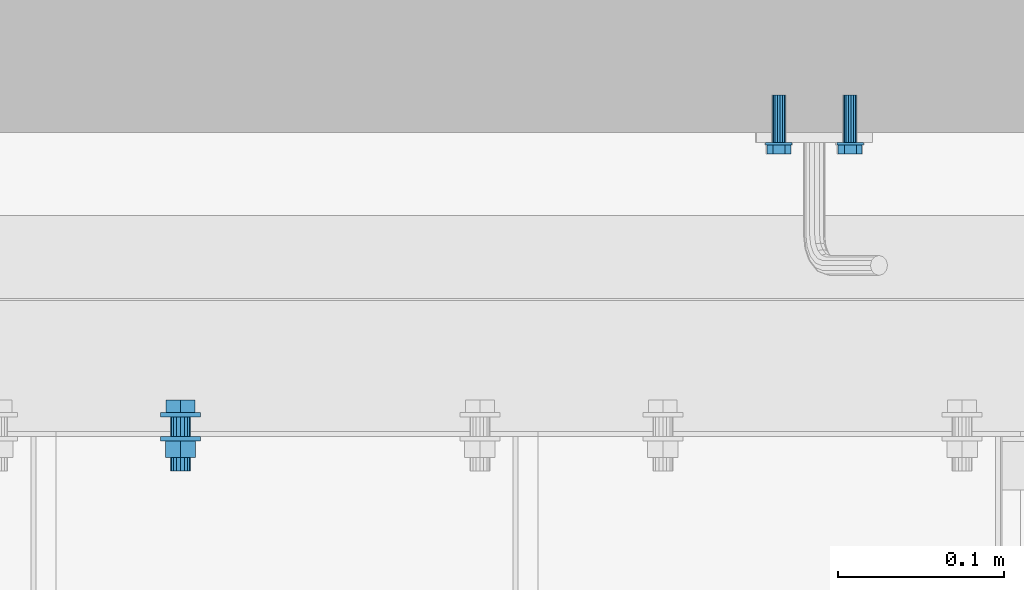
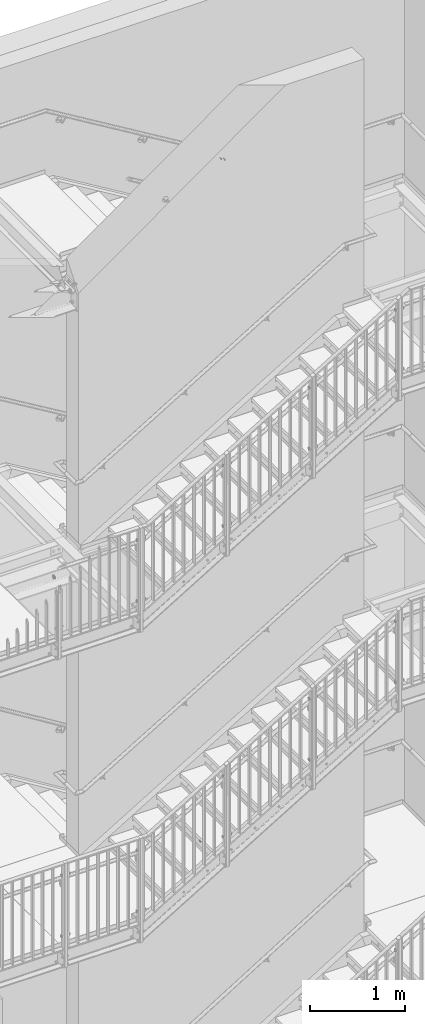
# One storey, part 358 of 410: 2 mechanical fasteners.
"""IFC2X3 building model written with IfcOpenShell, lengths in millimetres."""

from ifc_helpers import new_model, entity, si_unit, converted_unit, origin_with_axes, place, context, project, spatial, faceted_brep, element, save


model = new_model("IFC2X3")

# Units and contexts
model_context = context("Model", 3, precision=1e-09, world=origin_with_axes())
ifc_project = project(units=[si_unit("LENGTHUNIT", "METRE", prefix="MILLI"), si_unit("AREAUNIT", "SQUARE_METRE"), si_unit("VOLUMEUNIT", "CUBIC_METRE"), converted_unit("PLANEANGLEUNIT", "DEGREE", entity("IfcPlaneAngleMeasure", 0.01745329), si_unit("PLANEANGLEUNIT", "RADIAN"), dimensions=[0, 0, 0, 0, 0, 0, 0])], contexts=[model_context])

# Site, building, storey
site_placement = place(None, origin_with_axes())
site = spatial("IfcSite", under=ifc_project, at=site_placement, Name="mKR Teilneubau & Sanierung BA1 - Ostfildern", CompositionType="ELEMENT")
building_placement = place(site_placement, origin_with_axes())
building = spatial("IfcBuilding", under=site, at=building_placement, Name="Struktur 1", CompositionType="ELEMENT")
storey_placement = place(building_placement, origin_with_axes())
storey = spatial("IfcBuildingStorey", under=building, at=storey_placement, Name="Default Storey", CompositionType="ELEMENT", Elevation=0.0)

# Mechanical fasteners
mechanical_fastener_1_placement = place(None, origin_with_axes())
element("IfcMechanicalFastener", 1, at=mechanical_fastener_1_placement, inside=storey, ObjectType="Bolt", NominalDiameter=12.0, NominalLength=35.0, context=model_context, shape_type="Brep", body=[
    faceted_brep([(702.0, 18451.499999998, -1664.2), (702.0, 18448.999999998, -1664.2), (701.769423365, 18448.999999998, -1666.541083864), (701.769423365, 18451.499999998, -1666.541083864), (701.08655439, 18448.999999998, -1668.792201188), (701.08655439, 18451.499999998, -1668.792201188), (699.977635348, 18448.999999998, -1670.866842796), (699.977635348, 18451.499999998, -1670.866842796), (698.485281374, 18448.999999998, -1672.685281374), (698.485281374, 18451.499999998, -1672.685281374), (696.666842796, 18448.999999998, -1674.177635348), (696.666842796, 18451.499999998, -1674.177635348), (694.592201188, 18448.999999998, -1675.28655439), (694.592201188, 18451.499999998, -1675.28655439), (692.341083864, 18448.999999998, -1675.969423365), (692.341083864, 18451.499999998, -1675.969423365), (690.0, 18448.999999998, -1676.2), (690.0, 18451.499999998, -1676.2), (687.658916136, 18448.999999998, -1675.969423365), (687.658916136, 18451.499999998, -1675.969423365), (685.407798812, 18448.999999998, -1675.28655439), (685.407798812, 18451.499999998, -1675.28655439), (683.333157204, 18448.999999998, -1674.177635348), (683.333157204, 18451.499999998, -1674.177635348), (681.514718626, 18448.999999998, -1672.685281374), (681.514718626, 18451.499999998, -1672.685281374), (680.022364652, 18448.999999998, -1670.866842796), (680.022364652, 18451.499999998, -1670.866842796), (678.91344561, 18448.999999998, -1668.792201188), (678.91344561, 18451.499999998, -1668.792201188), (678.230576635, 18448.999999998, -1666.541083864), (678.230576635, 18451.499999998, -1666.541083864), (678.0, 18448.999999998, -1664.2), (678.0, 18451.499999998, -1664.2), (678.230576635, 18448.999999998, -1661.858916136), (678.230576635, 18451.499999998, -1661.858916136), (678.91344561, 18448.999999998, -1659.607798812), (678.91344561, 18451.499999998, -1659.607798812), (680.022364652, 18448.999999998, -1657.533157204), (680.022364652, 18451.499999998, -1657.533157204), (681.514718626, 18448.999999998, -1655.714718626), (681.514718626, 18451.499999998, -1655.714718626), (683.333157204, 18448.999999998, -1654.222364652), (683.333157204, 18451.499999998, -1654.222364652), (685.407798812, 18448.999999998, -1653.11344561), (685.407798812, 18451.499999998, -1653.11344561), (687.658916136, 18448.999999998, -1652.430576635), (687.658916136, 18451.499999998, -1652.430576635), (690.0, 18448.999999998, -1652.2), (690.0, 18451.499999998, -1652.2), (692.341083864, 18448.999999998, -1652.430576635), (692.341083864, 18451.499999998, -1652.430576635), (694.592201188, 18448.999999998, -1653.11344561), (694.592201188, 18451.499999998, -1653.11344561), (696.666842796, 18448.999999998, -1654.222364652), (696.666842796, 18451.499999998, -1654.222364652), (698.485281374, 18448.999999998, -1655.714718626), (698.485281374, 18451.499999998, -1655.714718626), (699.977635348, 18448.999999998, -1657.533157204), (699.977635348, 18451.499999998, -1657.533157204), (701.08655439, 18448.999999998, -1659.607798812), (701.08655439, 18451.499999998, -1659.607798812), (701.769423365, 18448.999999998, -1661.858916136), (701.769423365, 18451.499999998, -1661.858916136)], [[[0, 1, 2, 3]], [[3, 2, 4, 5]], [[5, 4, 6, 7]], [[7, 6, 8, 9]], [[9, 8, 10, 11]], [[11, 10, 12, 13]], [[13, 12, 14, 15]], [[15, 14, 16, 17]], [[17, 16, 18, 19]], [[19, 18, 20, 21]], [[21, 20, 22, 23]], [[23, 22, 24, 25]], [[25, 24, 26, 27]], [[27, 26, 28, 29]], [[29, 28, 30, 31]], [[31, 30, 32, 33]], [[33, 32, 34, 35]], [[35, 34, 36, 37]], [[37, 36, 38, 39]], [[39, 38, 40, 41]], [[41, 40, 42, 43]], [[43, 42, 44, 45]], [[45, 44, 46, 47]], [[47, 46, 48, 49]], [[49, 48, 50, 51]], [[51, 50, 52, 53]], [[53, 52, 54, 55]], [[55, 54, 56, 57]], [[57, 56, 58, 59]], [[59, 58, 60, 61]], [[61, 60, 62, 63]], [[63, 62, 1, 0]], [[0, 3, 5, 7, 9, 11, 13, 15, 17, 19, 21, 23, 25, 27, 29, 31, 33, 35, 37, 39, 41, 43, 45, 47, 49, 51, 53, 55, 57, 59, 61, 63]], [[1, 62, 60, 58, 56, 54, 52, 50, 48, 46, 44, 42, 40, 38, 36, 34, 32, 30, 28, 26, 24, 22, 20, 18, 16, 14, 12, 10, 8, 6, 4, 2]]]),
    faceted_brep([(681.326755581, 18451.499999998, -1669.2075), (681.326755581, 18458.999999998, -1669.2075), (690.0, 18458.999999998, -1674.215), (690.0, 18451.499999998, -1674.215), (698.673244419, 18458.999999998, -1669.2075), (698.673244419, 18451.499999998, -1669.2075), (698.673244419, 18458.999999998, -1659.1925), (698.673244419, 18451.499999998, -1659.1925), (690.0, 18458.999999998, -1654.185), (690.0, 18451.499999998, -1654.185), (681.326755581, 18458.999999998, -1659.1925), (681.326755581, 18451.499999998, -1659.1925)], [[[0, 1, 2, 3]], [[3, 2, 4, 5]], [[5, 4, 6, 7]], [[7, 6, 8, 9]], [[9, 8, 10, 11]], [[11, 10, 1, 0]], [[4, 2, 1, 10, 8, 6]], [[0, 3, 5, 7, 9, 11]]]),
    faceted_brep([(696.0, 18448.999999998, -1664.2), (696.0, 18436.999999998, -1664.2), (695.543277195, 18436.999999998, -1666.496100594), (695.543277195, 18448.999999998, -1666.496100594), (694.242640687, 18436.999999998, -1668.442640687), (694.242640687, 18448.999999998, -1668.442640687), (692.296100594, 18436.999999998, -1669.743277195), (692.296100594, 18448.999999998, -1669.743277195), (690.0, 18436.999999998, -1670.2), (690.0, 18448.999999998, -1670.2), (687.703899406, 18436.999999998, -1669.743277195), (687.703899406, 18448.999999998, -1669.743277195), (685.757359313, 18436.999999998, -1668.442640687), (685.757359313, 18448.999999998, -1668.442640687), (684.456722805, 18436.999999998, -1666.496100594), (684.456722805, 18448.999999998, -1666.496100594), (684.0, 18436.999999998, -1664.2), (684.0, 18448.999999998, -1664.2), (684.456722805, 18436.999999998, -1661.903899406), (684.456722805, 18448.999999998, -1661.903899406), (685.757359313, 18436.999999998, -1659.957359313), (685.757359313, 18448.999999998, -1659.957359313), (687.703899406, 18436.999999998, -1658.656722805), (687.703899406, 18448.999999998, -1658.656722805), (690.0, 18436.999999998, -1658.2), (690.0, 18448.999999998, -1658.2), (692.296100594, 18436.999999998, -1658.656722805), (692.296100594, 18448.999999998, -1658.656722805), (694.242640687, 18436.999999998, -1659.957359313), (694.242640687, 18448.999999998, -1659.957359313), (695.543277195, 18436.999999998, -1661.903899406), (695.543277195, 18448.999999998, -1661.903899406)], [[[0, 1, 2, 3]], [[3, 2, 4, 5]], [[5, 4, 6, 7]], [[7, 6, 8, 9]], [[9, 8, 10, 11]], [[11, 10, 12, 13]], [[13, 12, 14, 15]], [[15, 14, 16, 17]], [[17, 16, 18, 19]], [[19, 18, 20, 21]], [[21, 20, 22, 23]], [[23, 22, 24, 25]], [[25, 24, 26, 27]], [[27, 26, 28, 29]], [[29, 28, 30, 31]], [[31, 30, 1, 0]], [[0, 3, 5, 7, 9, 11, 13, 15, 17, 19, 21, 23, 25, 27, 29, 31]], [[1, 30, 28, 26, 24, 22, 20, 18, 16, 14, 12, 10, 8, 6, 4, 2]]]),
    faceted_brep([(702.0, 18436.999999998, -1664.2), (702.0, 18434.499999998, -1664.2), (701.769423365, 18434.499999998, -1666.541083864), (701.769423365, 18436.999999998, -1666.541083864), (701.08655439, 18434.499999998, -1668.792201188), (701.08655439, 18436.999999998, -1668.792201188), (699.977635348, 18434.499999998, -1670.866842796), (699.977635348, 18436.999999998, -1670.866842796), (698.485281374, 18434.499999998, -1672.685281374), (698.485281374, 18436.999999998, -1672.685281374), (696.666842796, 18434.499999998, -1674.177635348), (696.666842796, 18436.999999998, -1674.177635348), (694.592201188, 18434.499999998, -1675.28655439), (694.592201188, 18436.999999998, -1675.28655439), (692.341083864, 18434.499999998, -1675.969423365), (692.341083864, 18436.999999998, -1675.969423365), (690.0, 18434.499999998, -1676.2), (690.0, 18436.999999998, -1676.2), (687.658916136, 18434.499999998, -1675.969423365), (687.658916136, 18436.999999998, -1675.969423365), (685.407798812, 18434.499999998, -1675.28655439), (685.407798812, 18436.999999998, -1675.28655439), (683.333157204, 18434.499999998, -1674.177635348), (683.333157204, 18436.999999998, -1674.177635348), (681.514718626, 18434.499999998, -1672.685281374), (681.514718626, 18436.999999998, -1672.685281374), (680.022364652, 18434.499999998, -1670.866842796), (680.022364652, 18436.999999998, -1670.866842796), (678.91344561, 18434.499999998, -1668.792201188), (678.91344561, 18436.999999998, -1668.792201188), (678.230576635, 18434.499999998, -1666.541083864), (678.230576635, 18436.999999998, -1666.541083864), (678.0, 18434.499999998, -1664.2), (678.0, 18436.999999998, -1664.2), (678.230576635, 18434.499999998, -1661.858916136), (678.230576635, 18436.999999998, -1661.858916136), (678.91344561, 18434.499999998, -1659.607798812), (678.91344561, 18436.999999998, -1659.607798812), (680.022364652, 18434.499999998, -1657.533157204), (680.022364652, 18436.999999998, -1657.533157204), (681.514718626, 18434.499999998, -1655.714718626), (681.514718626, 18436.999999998, -1655.714718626), (683.333157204, 18434.499999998, -1654.222364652), (683.333157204, 18436.999999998, -1654.222364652), (685.407798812, 18434.499999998, -1653.11344561), (685.407798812, 18436.999999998, -1653.11344561), (687.658916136, 18434.499999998, -1652.430576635), (687.658916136, 18436.999999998, -1652.430576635), (690.0, 18434.499999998, -1652.2), (690.0, 18436.999999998, -1652.2), (692.341083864, 18434.499999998, -1652.430576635), (692.341083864, 18436.999999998, -1652.430576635), (694.592201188, 18434.499999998, -1653.11344561), (694.592201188, 18436.999999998, -1653.11344561), (696.666842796, 18434.499999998, -1654.222364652), (696.666842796, 18436.999999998, -1654.222364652), (698.485281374, 18434.499999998, -1655.714718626), (698.485281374, 18436.999999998, -1655.714718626), (699.977635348, 18434.499999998, -1657.533157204), (699.977635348, 18436.999999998, -1657.533157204), (701.08655439, 18434.499999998, -1659.607798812), (701.08655439, 18436.999999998, -1659.607798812), (701.769423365, 18434.499999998, -1661.858916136), (701.769423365, 18436.999999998, -1661.858916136)], [[[0, 1, 2, 3]], [[3, 2, 4, 5]], [[5, 4, 6, 7]], [[7, 6, 8, 9]], [[9, 8, 10, 11]], [[11, 10, 12, 13]], [[13, 12, 14, 15]], [[15, 14, 16, 17]], [[17, 16, 18, 19]], [[19, 18, 20, 21]], [[21, 20, 22, 23]], [[23, 22, 24, 25]], [[25, 24, 26, 27]], [[27, 26, 28, 29]], [[29, 28, 30, 31]], [[31, 30, 32, 33]], [[33, 32, 34, 35]], [[35, 34, 36, 37]], [[37, 36, 38, 39]], [[39, 38, 40, 41]], [[41, 40, 42, 43]], [[43, 42, 44, 45]], [[45, 44, 46, 47]], [[47, 46, 48, 49]], [[49, 48, 50, 51]], [[51, 50, 52, 53]], [[53, 52, 54, 55]], [[55, 54, 56, 57]], [[57, 56, 58, 59]], [[59, 58, 60, 61]], [[61, 60, 62, 63]], [[63, 62, 1, 0]], [[0, 3, 5, 7, 9, 11, 13, 15, 17, 19, 21, 23, 25, 27, 29, 31, 33, 35, 37, 39, 41, 43, 45, 47, 49, 51, 53, 55, 57, 59, 61, 63]], [[1, 62, 60, 58, 56, 54, 52, 50, 48, 46, 44, 42, 40, 38, 36, 34, 32, 30, 28, 26, 24, 22, 20, 18, 16, 14, 12, 10, 8, 6, 4, 2]]]),
    faceted_brep([(680.86343199, 18424.499999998, -1669.475), (680.86343199, 18434.499999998, -1669.475), (690.0, 18434.499999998, -1674.75), (690.0, 18424.499999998, -1674.75), (699.13656801, 18434.499999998, -1669.475), (699.13656801, 18424.499999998, -1669.475), (699.13656801, 18434.499999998, -1658.925), (699.13656801, 18424.499999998, -1658.925), (690.0, 18434.499999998, -1653.65), (690.0, 18424.499999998, -1653.65), (680.86343199, 18434.499999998, -1658.925), (680.86343199, 18424.499999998, -1658.925)], [[[0, 1, 2, 3]], [[3, 2, 4, 5]], [[5, 4, 6, 7]], [[7, 6, 8, 9]], [[9, 8, 10, 11]], [[11, 10, 1, 0]], [[4, 2, 1, 10, 8, 6]], [[0, 3, 5, 7, 9, 11]]]),
    faceted_brep([(696.0, 18424.499999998, -1664.2), (696.0, 18416.499999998, -1664.2), (695.543277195, 18416.499999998, -1666.496100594), (695.543277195, 18424.499999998, -1666.496100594), (694.242640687, 18416.499999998, -1668.442640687), (694.242640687, 18424.499999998, -1668.442640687), (692.296100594, 18416.499999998, -1669.743277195), (692.296100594, 18424.499999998, -1669.743277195), (690.0, 18416.499999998, -1670.2), (690.0, 18424.499999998, -1670.2), (687.703899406, 18416.499999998, -1669.743277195), (687.703899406, 18424.499999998, -1669.743277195), (685.757359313, 18416.499999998, -1668.442640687), (685.757359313, 18424.499999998, -1668.442640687), (684.456722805, 18416.499999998, -1666.496100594), (684.456722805, 18424.499999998, -1666.496100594), (684.0, 18416.499999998, -1664.2), (684.0, 18424.499999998, -1664.2), (684.456722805, 18416.499999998, -1661.903899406), (684.456722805, 18424.499999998, -1661.903899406), (685.757359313, 18416.499999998, -1659.957359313), (685.757359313, 18424.499999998, -1659.957359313), (687.703899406, 18416.499999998, -1658.656722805), (687.703899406, 18424.499999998, -1658.656722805), (690.0, 18416.499999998, -1658.2), (690.0, 18424.499999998, -1658.2), (692.296100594, 18416.499999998, -1658.656722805), (692.296100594, 18424.499999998, -1658.656722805), (694.242640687, 18416.499999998, -1659.957359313), (694.242640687, 18424.499999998, -1659.957359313), (695.543277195, 18416.499999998, -1661.903899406), (695.543277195, 18424.499999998, -1661.903899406)], [[[0, 1, 2, 3]], [[3, 2, 4, 5]], [[5, 4, 6, 7]], [[7, 6, 8, 9]], [[9, 8, 10, 11]], [[11, 10, 12, 13]], [[13, 12, 14, 15]], [[15, 14, 16, 17]], [[17, 16, 18, 19]], [[19, 18, 20, 21]], [[21, 20, 22, 23]], [[23, 22, 24, 25]], [[25, 24, 26, 27]], [[27, 26, 28, 29]], [[29, 28, 30, 31]], [[31, 30, 1, 0]], [[0, 3, 5, 7, 9, 11, 13, 15, 17, 19, 21, 23, 25, 27, 29, 31]], [[1, 30, 28, 26, 24, 22, 20, 18, 16, 14, 12, 10, 8, 6, 4, 2]]]),
])
mechanical_fastener_2_placement = place(None, origin_with_axes())
element("IfcMechanicalFastener", 2, at=mechanical_fastener_2_placement, inside=storey, ObjectType="-", NominalDiameter=8.0, NominalLength=30.0, context=model_context, shape_type="Brep", body=[
    faceted_brep([(1085.804534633, 18612.400061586, 6878.774343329), (1085.804534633, 18614.000061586, 6878.774343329), (1085.1297752, 18614.000061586, 6877.358651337), (1085.1297752, 18612.400061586, 6877.358651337), (1084.744168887, 18614.000061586, 6875.838522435), (1084.744168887, 18612.400061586, 6875.838522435), (1084.662534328, 18614.000061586, 6874.272374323), (1084.662534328, 18612.400061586, 6874.272374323), (1084.888008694, 18614.000061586, 6872.720393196), (1084.888008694, 18612.400061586, 6872.720393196), (1085.411927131, 18614.000061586, 6871.242220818), (1085.411927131, 18612.400061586, 6871.242220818), (1086.214155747, 18614.000061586, 6869.894662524), (1086.214155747, 18612.400061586, 6869.894662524), (1087.263865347, 18614.000061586, 6868.729504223), (1087.263865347, 18612.400061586, 6868.729504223), (1088.520716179, 18614.000061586, 6867.791522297), (1088.520716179, 18612.400061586, 6867.791522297), (1089.936408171, 18614.000061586, 6867.116762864), (1089.936408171, 18612.400061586, 6867.116762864), (1091.456537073, 18614.000061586, 6866.731156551), (1091.456537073, 18612.400061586, 6866.731156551), (1093.022685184, 18614.000061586, 6866.649521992), (1093.022685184, 18612.400061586, 6866.649521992), (1094.574666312, 18614.000061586, 6866.874996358), (1094.574666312, 18612.400061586, 6866.874996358), (1096.05283869, 18614.000061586, 6867.398914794), (1096.05283869, 18612.400061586, 6867.398914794), (1097.400396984, 18614.000061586, 6868.201143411), (1097.400396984, 18612.400061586, 6868.201143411), (1098.565555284, 18614.000061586, 6869.25085301), (1098.565555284, 18612.400061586, 6869.25085301), (1099.50353721, 18614.000061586, 6870.507703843), (1099.50353721, 18612.400061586, 6870.507703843), (1100.178296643, 18614.000061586, 6871.923395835), (1100.178296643, 18612.400061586, 6871.923395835), (1100.563902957, 18614.000061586, 6873.443524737), (1100.563902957, 18612.400061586, 6873.443524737), (1100.645537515, 18614.000061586, 6875.009672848), (1100.645537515, 18612.400061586, 6875.009672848), (1100.42006315, 18614.000061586, 6876.561653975), (1100.42006315, 18612.400061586, 6876.561653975), (1099.896144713, 18614.000061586, 6878.039826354), (1099.896144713, 18612.400061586, 6878.039826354), (1099.093916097, 18614.000061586, 6879.387384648), (1099.093916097, 18612.400061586, 6879.387384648), (1098.044206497, 18614.000061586, 6880.552542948), (1098.044206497, 18612.400061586, 6880.552542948), (1096.787355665, 18614.000061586, 6881.490524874), (1096.787355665, 18612.400061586, 6881.490524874), (1095.371663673, 18614.000061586, 6882.165284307), (1095.371663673, 18612.400061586, 6882.165284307), (1093.851534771, 18614.000061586, 6882.55089062), (1093.851534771, 18612.400061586, 6882.55089062), (1092.285386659, 18614.000061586, 6882.632525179), (1092.285386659, 18612.400061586, 6882.632525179), (1090.733405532, 18614.000061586, 6882.407050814), (1090.733405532, 18612.400061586, 6882.407050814), (1089.255233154, 18614.000061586, 6881.883132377), (1089.255233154, 18612.400061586, 6881.883132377), (1087.90767486, 18614.000061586, 6881.080903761), (1087.90767486, 18612.400061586, 6881.080903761), (1086.74251656, 18614.000061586, 6880.031194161), (1086.74251656, 18612.400061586, 6880.031194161)], [[[0, 1, 2, 3]], [[3, 2, 4, 5]], [[5, 4, 6, 7]], [[7, 6, 8, 9]], [[9, 8, 10, 11]], [[11, 10, 12, 13]], [[13, 12, 14, 15]], [[15, 14, 16, 17]], [[17, 16, 18, 19]], [[19, 18, 20, 21]], [[21, 20, 22, 23]], [[23, 22, 24, 25]], [[25, 24, 26, 27]], [[27, 26, 28, 29]], [[29, 28, 30, 31]], [[31, 30, 32, 33]], [[33, 32, 34, 35]], [[35, 34, 36, 37]], [[37, 36, 38, 39]], [[39, 38, 40, 41]], [[41, 40, 42, 43]], [[43, 42, 44, 45]], [[45, 44, 46, 47]], [[47, 46, 48, 49]], [[49, 48, 50, 51]], [[51, 50, 52, 53]], [[53, 52, 54, 55]], [[55, 54, 56, 57]], [[57, 56, 58, 59]], [[59, 58, 60, 61]], [[61, 60, 62, 63]], [[63, 62, 1, 0]], [[0, 3, 5, 7, 9, 11, 13, 15, 17, 19, 21, 23, 25, 27, 29, 31, 33, 35, 37, 39, 41, 43, 45, 47, 49, 51, 53, 55, 57, 59, 61, 63]], [[1, 62, 60, 58, 56, 54, 52, 50, 48, 46, 44, 42, 40, 38, 36, 34, 32, 30, 28, 26, 24, 22, 20, 18, 16, 14, 12, 10, 8, 6, 4, 2]]]),
    faceted_brep([(1042.99515158, 18612.400061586, 6904.607591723), (1042.99515158, 18614.000061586, 6904.607591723), (1042.320392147, 18614.000061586, 6903.191899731), (1042.320392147, 18612.400061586, 6903.191899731), (1041.934785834, 18614.000061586, 6901.671770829), (1041.934785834, 18612.400061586, 6901.671770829), (1041.853151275, 18614.000061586, 6900.105622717), (1041.853151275, 18612.400061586, 6900.105622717), (1042.078625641, 18614.000061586, 6898.55364159), (1042.078625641, 18612.400061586, 6898.55364159), (1042.602544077, 18614.000061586, 6897.075469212), (1042.602544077, 18612.400061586, 6897.075469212), (1043.404772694, 18614.000061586, 6895.727910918), (1043.404772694, 18612.400061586, 6895.727910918), (1044.454482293, 18614.000061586, 6894.562752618), (1044.454482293, 18612.400061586, 6894.562752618), (1045.711333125, 18614.000061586, 6893.624770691), (1045.711333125, 18612.400061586, 6893.624770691), (1047.127025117, 18614.000061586, 6892.950011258), (1047.127025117, 18612.400061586, 6892.950011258), (1048.64715402, 18614.000061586, 6892.564404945), (1048.64715402, 18612.400061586, 6892.564404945), (1050.213302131, 18614.000061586, 6892.482770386), (1050.213302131, 18612.400061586, 6892.482770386), (1051.765283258, 18614.000061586, 6892.708244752), (1051.765283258, 18612.400061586, 6892.708244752), (1053.243455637, 18614.000061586, 6893.232163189), (1053.243455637, 18612.400061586, 6893.232163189), (1054.591013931, 18614.000061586, 6894.034391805), (1054.591013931, 18612.400061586, 6894.034391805), (1055.756172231, 18614.000061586, 6895.084101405), (1055.756172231, 18612.400061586, 6895.084101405), (1056.694154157, 18614.000061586, 6896.340952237), (1056.694154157, 18612.400061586, 6896.340952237), (1057.36891359, 18614.000061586, 6897.756644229), (1057.36891359, 18612.400061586, 6897.756644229), (1057.754519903, 18614.000061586, 6899.276773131), (1057.754519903, 18612.400061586, 6899.276773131), (1057.836154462, 18614.000061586, 6900.842921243), (1057.836154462, 18612.400061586, 6900.842921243), (1057.610680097, 18614.000061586, 6902.39490237), (1057.610680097, 18612.400061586, 6902.39490237), (1057.08676166, 18614.000061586, 6903.873074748), (1057.08676166, 18612.400061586, 6903.873074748), (1056.284533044, 18614.000061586, 6905.220633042), (1056.284533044, 18612.400061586, 6905.220633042), (1055.234823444, 18614.000061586, 6906.385791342), (1055.234823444, 18612.400061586, 6906.385791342), (1053.977972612, 18614.000061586, 6907.323773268), (1053.977972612, 18612.400061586, 6907.323773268), (1052.56228062, 18614.000061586, 6907.998532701), (1052.56228062, 18612.400061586, 6907.998532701), (1051.042151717, 18614.000061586, 6908.384139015), (1051.042151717, 18612.400061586, 6908.384139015), (1049.476003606, 18614.000061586, 6908.465773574), (1049.476003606, 18612.400061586, 6908.465773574), (1047.924022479, 18614.000061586, 6908.240299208), (1047.924022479, 18612.400061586, 6908.240299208), (1046.445850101, 18614.000061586, 6907.716380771), (1046.445850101, 18612.400061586, 6907.716380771), (1045.098291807, 18614.000061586, 6906.914152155), (1045.098291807, 18612.400061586, 6906.914152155), (1043.933133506, 18614.000061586, 6905.864442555), (1043.933133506, 18612.400061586, 6905.864442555)], [[[0, 1, 2, 3]], [[3, 2, 4, 5]], [[5, 4, 6, 7]], [[7, 6, 8, 9]], [[9, 8, 10, 11]], [[11, 10, 12, 13]], [[13, 12, 14, 15]], [[15, 14, 16, 17]], [[17, 16, 18, 19]], [[19, 18, 20, 21]], [[21, 20, 22, 23]], [[23, 22, 24, 25]], [[25, 24, 26, 27]], [[27, 26, 28, 29]], [[29, 28, 30, 31]], [[31, 30, 32, 33]], [[33, 32, 34, 35]], [[35, 34, 36, 37]], [[37, 36, 38, 39]], [[39, 38, 40, 41]], [[41, 40, 42, 43]], [[43, 42, 44, 45]], [[45, 44, 46, 47]], [[47, 46, 48, 49]], [[49, 48, 50, 51]], [[51, 50, 52, 53]], [[53, 52, 54, 55]], [[55, 54, 56, 57]], [[57, 56, 58, 59]], [[59, 58, 60, 61]], [[61, 60, 62, 63]], [[63, 62, 1, 0]], [[0, 3, 5, 7, 9, 11, 13, 15, 17, 19, 21, 23, 25, 27, 29, 31, 33, 35, 37, 39, 41, 43, 45, 47, 49, 51, 53, 55, 57, 59, 61, 63]], [[1, 62, 60, 58, 56, 54, 52, 50, 48, 46, 44, 42, 40, 38, 36, 34, 32, 30, 28, 26, 24, 22, 20, 18, 16, 14, 12, 10, 8, 6, 4, 2]]]),
    faceted_brep([(1096.127868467, 18612.400061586, 6868.345899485), (1096.127868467, 18607.100061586, 6868.345899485), (1088.939214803, 18607.100061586, 6868.485034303), (1088.939214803, 18612.400061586, 6868.485034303), (1085.465382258, 18607.100061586, 6874.780158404), (1085.465382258, 18612.400061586, 6874.780158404), (1089.180203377, 18607.100061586, 6880.936147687), (1089.180203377, 18612.400061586, 6880.936147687), (1096.368857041, 18607.100061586, 6880.797012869), (1096.368857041, 18612.400061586, 6880.797012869), (1099.842689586, 18607.100061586, 6874.501888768), (1099.842689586, 18612.400061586, 6874.501888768)], [[[0, 1, 2, 3]], [[3, 2, 4, 5]], [[5, 4, 6, 7]], [[7, 6, 8, 9]], [[9, 8, 10, 11]], [[11, 10, 1, 0]], [[4, 2, 1, 10, 8, 6]], [[0, 3, 5, 7, 9, 11]]]),
    faceted_brep([(1053.318485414, 18612.400061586, 6894.179147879), (1053.318485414, 18607.100061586, 6894.179147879), (1046.129831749, 18607.100061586, 6894.318282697), (1046.129831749, 18612.400061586, 6894.318282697), (1042.655999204, 18607.100061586, 6900.613406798), (1042.655999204, 18612.400061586, 6900.613406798), (1046.370820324, 18607.100061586, 6906.769396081), (1046.370820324, 18612.400061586, 6906.769396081), (1053.559473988, 18607.100061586, 6906.630261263), (1053.559473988, 18612.400061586, 6906.630261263), (1057.033306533, 18607.100061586, 6900.335137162), (1057.033306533, 18612.400061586, 6900.335137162)], [[[0, 1, 2, 3]], [[3, 2, 4, 5]], [[5, 4, 6, 7]], [[7, 6, 8, 9]], [[9, 8, 10, 11]], [[11, 10, 1, 0]], [[4, 2, 1, 10, 8, 6]], [[0, 3, 5, 7, 9, 11]]]),
    faceted_brep([(1089.229285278, 18614.000061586, 6876.707683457), (1089.229285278, 18624.000061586, 6876.707683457), (1088.699102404, 18624.000061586, 6875.23977301), (1088.699102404, 18614.000061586, 6875.23977301), (1088.771022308, 18624.000061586, 6873.680708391), (1088.771022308, 18614.000061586, 6873.680708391), (1089.434095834, 18624.000061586, 6872.267843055), (1089.434095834, 18614.000061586, 6872.267843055), (1090.58737605, 18624.000061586, 6871.216272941), (1090.58737605, 18614.000061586, 6871.216272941), (1092.055286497, 18624.000061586, 6870.686090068), (1092.055286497, 18614.000061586, 6870.686090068), (1093.614351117, 18624.000061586, 6870.758009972), (1093.614351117, 18614.000061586, 6870.758009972), (1095.027216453, 18624.000061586, 6871.421083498), (1095.027216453, 18614.000061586, 6871.421083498), (1096.078786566, 18624.000061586, 6872.574363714), (1096.078786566, 18614.000061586, 6872.574363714), (1096.608969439, 18624.000061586, 6874.042274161), (1096.608969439, 18614.000061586, 6874.042274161), (1096.537049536, 18624.000061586, 6875.601338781), (1096.537049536, 18614.000061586, 6875.601338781), (1095.873976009, 18624.000061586, 6877.014204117), (1095.873976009, 18614.000061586, 6877.014204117), (1094.720695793, 18624.000061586, 6878.06577423), (1094.720695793, 18614.000061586, 6878.06577423), (1093.252785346, 18624.000061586, 6878.595957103), (1093.252785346, 18614.000061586, 6878.595957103), (1091.693720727, 18624.000061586, 6878.5240372), (1091.693720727, 18614.000061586, 6878.5240372), (1090.280855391, 18624.000061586, 6877.860963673), (1090.280855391, 18614.000061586, 6877.860963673)], [[[0, 1, 2, 3]], [[3, 2, 4, 5]], [[5, 4, 6, 7]], [[7, 6, 8, 9]], [[9, 8, 10, 11]], [[11, 10, 12, 13]], [[13, 12, 14, 15]], [[15, 14, 16, 17]], [[17, 16, 18, 19]], [[19, 18, 20, 21]], [[21, 20, 22, 23]], [[23, 22, 24, 25]], [[25, 24, 26, 27]], [[27, 26, 28, 29]], [[29, 28, 30, 31]], [[31, 30, 1, 0]], [[0, 3, 5, 7, 9, 11, 13, 15, 17, 19, 21, 23, 25, 27, 29, 31]], [[1, 30, 28, 26, 24, 22, 20, 18, 16, 14, 12, 10, 8, 6, 4, 2]]]),
    faceted_brep([(1046.419902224, 18614.000061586, 6902.540931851), (1046.419902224, 18624.000061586, 6902.540931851), (1045.889719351, 18624.000061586, 6901.073021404), (1045.889719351, 18614.000061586, 6901.073021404), (1045.961639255, 18624.000061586, 6899.513956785), (1045.961639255, 18614.000061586, 6899.513956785), (1046.624712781, 18624.000061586, 6898.101091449), (1046.624712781, 18614.000061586, 6898.101091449), (1047.777992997, 18624.000061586, 6897.049521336), (1047.777992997, 18614.000061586, 6897.049521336), (1049.245903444, 18624.000061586, 6896.519338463), (1049.245903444, 18614.000061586, 6896.519338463), (1050.804968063, 18624.000061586, 6896.591258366), (1050.804968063, 18614.000061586, 6896.591258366), (1052.2178334, 18624.000061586, 6897.254331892), (1052.2178334, 18614.000061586, 6897.254331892), (1053.269403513, 18624.000061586, 6898.407612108), (1053.269403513, 18614.000061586, 6898.407612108), (1053.799586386, 18624.000061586, 6899.875522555), (1053.799586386, 18614.000061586, 6899.875522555), (1053.727666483, 18624.000061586, 6901.434587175), (1053.727666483, 18614.000061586, 6901.434587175), (1053.064592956, 18624.000061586, 6902.847452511), (1053.064592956, 18614.000061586, 6902.847452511), (1051.91131274, 18624.000061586, 6903.899022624), (1051.91131274, 18614.000061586, 6903.899022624), (1050.443402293, 18624.000061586, 6904.429205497), (1050.443402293, 18614.000061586, 6904.429205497), (1048.884337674, 18624.000061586, 6904.357285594), (1048.884337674, 18614.000061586, 6904.357285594), (1047.471472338, 18624.000061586, 6903.694212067), (1047.471472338, 18614.000061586, 6903.694212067)], [[[0, 1, 2, 3]], [[3, 2, 4, 5]], [[5, 4, 6, 7]], [[7, 6, 8, 9]], [[9, 8, 10, 11]], [[11, 10, 12, 13]], [[13, 12, 14, 15]], [[15, 14, 16, 17]], [[17, 16, 18, 19]], [[19, 18, 20, 21]], [[21, 20, 22, 23]], [[23, 22, 24, 25]], [[25, 24, 26, 27]], [[27, 26, 28, 29]], [[29, 28, 30, 31]], [[31, 30, 1, 0]], [[0, 3, 5, 7, 9, 11, 13, 15, 17, 19, 21, 23, 25, 27, 29, 31]], [[1, 30, 28, 26, 24, 22, 20, 18, 16, 14, 12, 10, 8, 6, 4, 2]]]),
    faceted_brep([(1089.229285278, 18624.000061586, 6876.707683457), (1089.229285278, 18642.400061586, 6876.707683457), (1088.699102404, 18642.400061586, 6875.23977301), (1088.699102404, 18624.000061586, 6875.23977301), (1088.771022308, 18642.400061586, 6873.680708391), (1088.771022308, 18624.000061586, 6873.680708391), (1089.434095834, 18642.400061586, 6872.267843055), (1089.434095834, 18624.000061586, 6872.267843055), (1090.58737605, 18642.400061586, 6871.216272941), (1090.58737605, 18624.000061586, 6871.216272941), (1092.055286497, 18642.400061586, 6870.686090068), (1092.055286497, 18624.000061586, 6870.686090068), (1093.614351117, 18642.400061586, 6870.758009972), (1093.614351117, 18624.000061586, 6870.758009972), (1095.027216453, 18642.400061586, 6871.421083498), (1095.027216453, 18624.000061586, 6871.421083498), (1096.078786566, 18642.400061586, 6872.574363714), (1096.078786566, 18624.000061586, 6872.574363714), (1096.608969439, 18642.400061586, 6874.042274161), (1096.608969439, 18624.000061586, 6874.042274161), (1096.537049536, 18642.400061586, 6875.601338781), (1096.537049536, 18624.000061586, 6875.601338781), (1095.873976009, 18642.400061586, 6877.014204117), (1095.873976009, 18624.000061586, 6877.014204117), (1094.720695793, 18642.400061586, 6878.06577423), (1094.720695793, 18624.000061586, 6878.06577423), (1093.252785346, 18642.400061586, 6878.595957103), (1093.252785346, 18624.000061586, 6878.595957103), (1091.693720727, 18642.400061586, 6878.5240372), (1091.693720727, 18624.000061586, 6878.5240372), (1090.280855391, 18642.400061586, 6877.860963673), (1090.280855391, 18624.000061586, 6877.860963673)], [[[0, 1, 2, 3]], [[3, 2, 4, 5]], [[5, 4, 6, 7]], [[7, 6, 8, 9]], [[9, 8, 10, 11]], [[11, 10, 12, 13]], [[13, 12, 14, 15]], [[15, 14, 16, 17]], [[17, 16, 18, 19]], [[19, 18, 20, 21]], [[21, 20, 22, 23]], [[23, 22, 24, 25]], [[25, 24, 26, 27]], [[27, 26, 28, 29]], [[29, 28, 30, 31]], [[31, 30, 1, 0]], [[0, 3, 5, 7, 9, 11, 13, 15, 17, 19, 21, 23, 25, 27, 29, 31]], [[1, 30, 28, 26, 24, 22, 20, 18, 16, 14, 12, 10, 8, 6, 4, 2]]]),
    faceted_brep([(1046.419902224, 18624.000061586, 6902.540931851), (1046.419902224, 18642.400061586, 6902.540931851), (1045.889719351, 18642.400061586, 6901.073021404), (1045.889719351, 18624.000061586, 6901.073021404), (1045.961639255, 18642.400061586, 6899.513956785), (1045.961639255, 18624.000061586, 6899.513956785), (1046.624712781, 18642.400061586, 6898.101091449), (1046.624712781, 18624.000061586, 6898.101091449), (1047.777992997, 18642.400061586, 6897.049521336), (1047.777992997, 18624.000061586, 6897.049521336), (1049.245903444, 18642.400061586, 6896.519338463), (1049.245903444, 18624.000061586, 6896.519338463), (1050.804968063, 18642.400061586, 6896.591258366), (1050.804968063, 18624.000061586, 6896.591258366), (1052.2178334, 18642.400061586, 6897.254331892), (1052.2178334, 18624.000061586, 6897.254331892), (1053.269403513, 18642.400061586, 6898.407612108), (1053.269403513, 18624.000061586, 6898.407612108), (1053.799586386, 18642.400061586, 6899.875522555), (1053.799586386, 18624.000061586, 6899.875522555), (1053.727666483, 18642.400061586, 6901.434587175), (1053.727666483, 18624.000061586, 6901.434587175), (1053.064592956, 18642.400061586, 6902.847452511), (1053.064592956, 18624.000061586, 6902.847452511), (1051.91131274, 18642.400061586, 6903.899022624), (1051.91131274, 18624.000061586, 6903.899022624), (1050.443402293, 18642.400061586, 6904.429205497), (1050.443402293, 18624.000061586, 6904.429205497), (1048.884337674, 18642.400061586, 6904.357285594), (1048.884337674, 18624.000061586, 6904.357285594), (1047.471472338, 18642.400061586, 6903.694212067), (1047.471472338, 18624.000061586, 6903.694212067)], [[[0, 1, 2, 3]], [[3, 2, 4, 5]], [[5, 4, 6, 7]], [[7, 6, 8, 9]], [[9, 8, 10, 11]], [[11, 10, 12, 13]], [[13, 12, 14, 15]], [[15, 14, 16, 17]], [[17, 16, 18, 19]], [[19, 18, 20, 21]], [[21, 20, 22, 23]], [[23, 22, 24, 25]], [[25, 24, 26, 27]], [[27, 26, 28, 29]], [[29, 28, 30, 31]], [[31, 30, 1, 0]], [[0, 3, 5, 7, 9, 11, 13, 15, 17, 19, 21, 23, 25, 27, 29, 31]], [[1, 30, 28, 26, 24, 22, 20, 18, 16, 14, 12, 10, 8, 6, 4, 2]]]),
])

save(model, "model.ifc")
